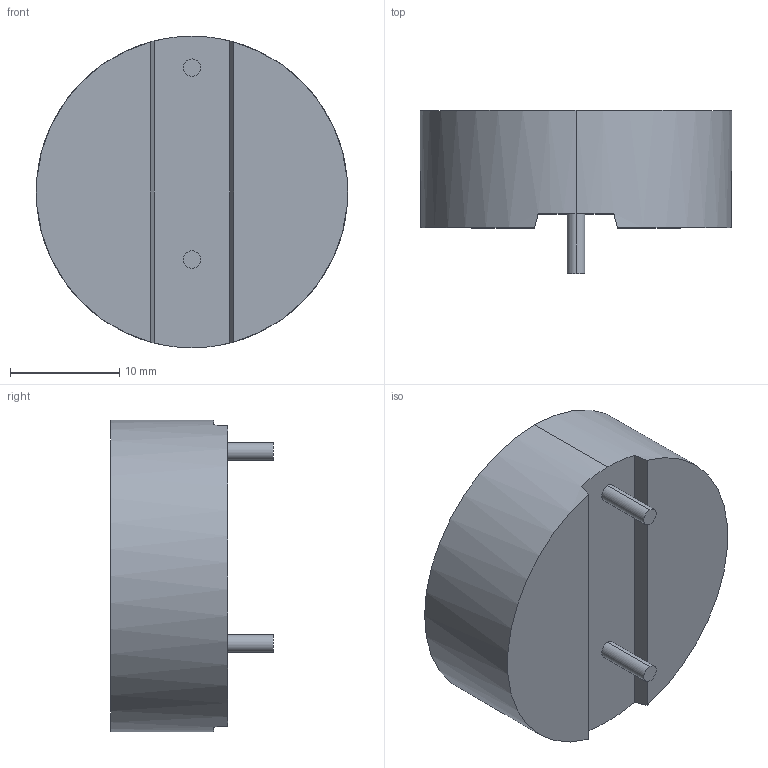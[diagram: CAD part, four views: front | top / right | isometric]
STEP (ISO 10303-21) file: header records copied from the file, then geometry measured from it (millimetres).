
FILE_DESCRIPTION (( 'STEP AP214' ), '1' );
FILE_NAME ('IHTH-1125KZ-5A 22uH.STEP', '2025-03-14T18:38:42', ( '' ), ( '' ), 'SwSTEP 2.0', 'SolidWorks 2024', '' );
FILE_SCHEMA (( 'AUTOMOTIVE_DESIGN' ));
Length unit declared in the file: inch
Products named in the file (1): IHTH-1125KZ-5A 22uH
Bounding box: 28.57 x 14.94 x 28.57 mm (x, y, z)
Volume: 6650.6 mm3; surface area: 2340.7 mm2
Topology: 1 solids, 1 shells, 190 faces, 498 edges, 332 vertices
Faces by surface type: plane 131, bspline 49, cylinder 10
Entity records: 8847 total; most frequent: CARTESIAN_POINT 4450, ORIENTED_EDGE 996, DIRECTION 704, EDGE_CURVE 498, LINE 372, VECTOR 372, VERTEX_POINT 332, EDGE_LOOP 212
